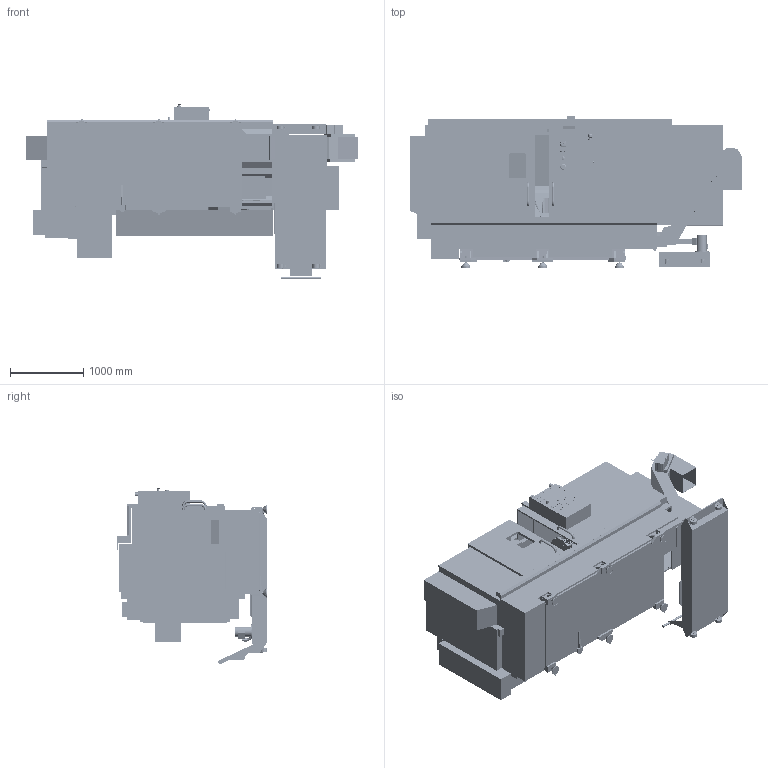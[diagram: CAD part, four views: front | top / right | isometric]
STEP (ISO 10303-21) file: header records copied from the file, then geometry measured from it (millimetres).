
FILE_DESCRIPTION (( 'STEP AP203' ), '1' );
FILE_NAME ('ST-28LY- 2_2025.STEP', '2025-02-06T22:09:51', ( '' ), ( '' ), 'SwSTEP 2.0', 'SolidWorks 2023', '' );
FILE_SCHEMA (( 'CONFIG_CONTROL_DESIGN' ));
Length unit declared in the file: inch
Products named in the file (20): ST-28LY- Tool Setter; ST-28LY- X Axis Wedge; ST-28LY- BMT65; ST-28LY- Auto Doors; ST-28LY-  Z_Y Axis; ST-28LY- 5 Inch Sub-Spindle Chuck; ST-28LY- Enclosure; ST-28LY- LIve Center; ST-28LY- Turret Housing; ST-28LY- Conveyor; ST-28LY- Leveling Pads; ST-28LY- Base; ST-28LY- 12 Inch Chuck; ST-28LY- Sub Spindle; ST-28LY- Spindle; ST-28LY- Steady Rest; ST-28LY- TailStock; ST-28LY- 55 Gallon Coolant Tank; ST-28LY- Anchor Pattern; ST-28LY- 2_2025
Assembly tree (19 placements, depth 2):
  ST-28LY- 2_2025
    ST-28LY- Base
    ST-28LY- Leveling Pads
    ST-28LY- Anchor Pattern
    ST-28LY- Turret Housing
    ST-28LY- BMT65
    ST-28LY- Sub Spindle
    ST-28LY- 5 Inch Sub-Spindle Chuck
    ST-28LY- TailStock
    ST-28LY- LIve Center
    ST-28LY- Spindle
    ST-28LY- 12 Inch Chuck
    ST-28LY- Steady Rest
    ST-28LY- Tool Setter
    ST-28LY- Enclosure
    ST-28LY- Auto Doors
    ST-28LY- 55 Gallon Coolant Tank
    ST-28LY- Conveyor
    ST-28LY-  Z_Y Axis
    ST-28LY- X Axis Wedge
Bounding box: 4536.57 x 2063.11 x 2410.23 mm (x, y, z)
Volume: 3814745133.3 mm3; surface area: 106736751.9 mm2
Topology: 71 solids, 105 shells, 11542 faces, 30716 edges, 19648 vertices
Faces by surface type: plane 6239, cylinder 2989, bspline 1037, cone 981, torus 231, sphere 65
Entity records: 433871 total; most frequent: CARTESIAN_POINT 152562, ORIENTED_EDGE 60686, DIRECTION 54114, EDGE_CURVE 30343, VERTEX_POINT 19647, LINE 18742, VECTOR 18742, AXIS2_PLACEMENT_3D 17686
